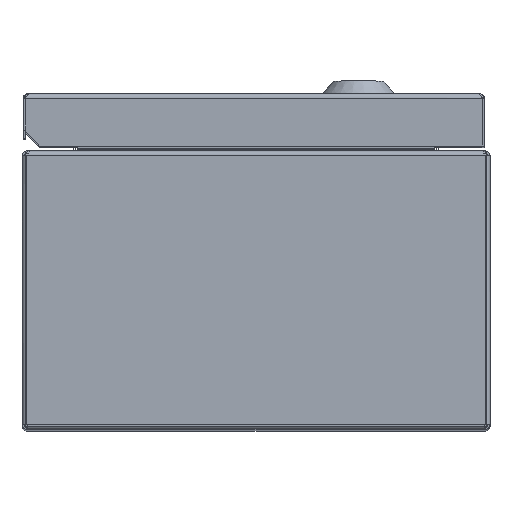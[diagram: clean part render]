
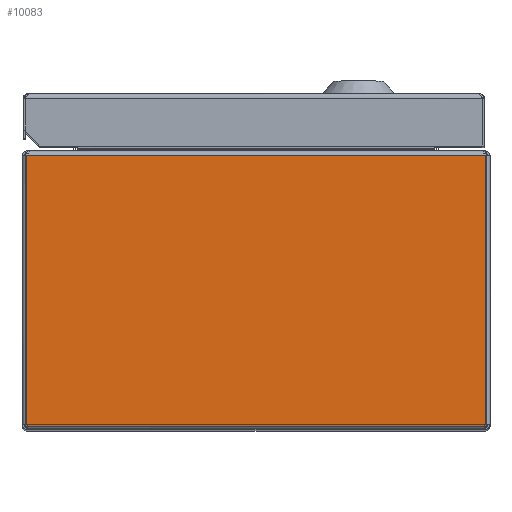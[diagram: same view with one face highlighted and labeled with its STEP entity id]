
A CAD part, top view. The second image highlights one B-rep face of the part: STEP entity #10083.
In plain terms, the highlighted planar face has unit normal (0, 0, 1).
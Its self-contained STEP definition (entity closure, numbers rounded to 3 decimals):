
#1324 = CARTESIAN_POINT ( 'NONE',  ( -103.5, 1.5, 200. ) ) ;
#1974 = DIRECTION ( 'NONE',  ( 0., -1., 0. ) ) ;
#2226 = LINE ( 'NONE', #9268, #6139 ) ;
#2232 = ORIENTED_EDGE ( 'NONE', *, *, #11331, .F. ) ;
#2481 = ORIENTED_EDGE ( 'NONE', *, *, #3702, .F. ) ;
#2520 = EDGE_CURVE ( 'NONE', #9438, #7120, #2226, .T. ) ;
#2756 = AXIS2_PLACEMENT_3D ( 'NONE', #9349, #9257, #6211 ) ;
#3235 = PLANE ( 'NONE',  #2756 ) ;
#3545 = VECTOR ( 'NONE', #8386, 1000. ) ;
#3702 = EDGE_CURVE ( 'NONE', #9438, #9050, #11297, .T. ) ;
#3958 = CARTESIAN_POINT ( 'NONE',  ( -103.5, 1.5, 200. ) ) ;
#4312 = FACE_OUTER_BOUND ( 'NONE', #7557, .T. ) ;
#4637 = CARTESIAN_POINT ( 'NONE',  ( -103.5, 122.8, 200. ) ) ;
#5139 = CARTESIAN_POINT ( 'NONE',  ( 103.5, 122.8, 200. ) ) ;
#5252 = ORIENTED_EDGE ( 'NONE', *, *, #2520, .T. ) ;
#6139 = VECTOR ( 'NONE', #9357, 1000. ) ;
#6211 = DIRECTION ( 'NONE',  ( 0., 1., 0. ) ) ;
#7120 = VERTEX_POINT ( 'NONE', #3958 ) ;
#7557 = EDGE_LOOP ( 'NONE', ( #5252, #12172, #2232, #2481 ) ) ;
#8182 = CARTESIAN_POINT ( 'NONE',  ( 103.5, 1.5, 200. ) ) ;
#8194 = VERTEX_POINT ( 'NONE', #8182 ) ;
#8386 = DIRECTION ( 'NONE',  ( 1., 0., 0. ) ) ;
#9050 = VERTEX_POINT ( 'NONE', #5139 ) ;
#9053 = VECTOR ( 'NONE', #11766, 1000. ) ;
#9257 = DIRECTION ( 'NONE',  ( 0., 0., 1. ) ) ;
#9268 = CARTESIAN_POINT ( 'NONE',  ( -103.5, 122.8, 200. ) ) ;
#9349 = CARTESIAN_POINT ( 'NONE',  ( -103.5, 122.8, 200. ) ) ;
#9357 = DIRECTION ( 'NONE',  ( 0., -1., 0. ) ) ;
#9438 = VERTEX_POINT ( 'NONE', #11058 ) ;
#9694 = LINE ( 'NONE', #1324, #3545 ) ;
#10083 = ADVANCED_FACE ( 'NONE', ( #4312 ), #3235, .T. ) ;
#10680 = LINE ( 'NONE', #13083, #11488 ) ;
#11058 = CARTESIAN_POINT ( 'NONE',  ( -103.5, 122.8, 200. ) ) ;
#11297 = LINE ( 'NONE', #4637, #9053 ) ;
#11331 = EDGE_CURVE ( 'NONE', #9050, #8194, #10680, .T. ) ;
#11488 = VECTOR ( 'NONE', #1974, 1000. ) ;
#11766 = DIRECTION ( 'NONE',  ( 1., 0., 0. ) ) ;
#12157 = EDGE_CURVE ( 'NONE', #7120, #8194, #9694, .T. ) ;
#12172 = ORIENTED_EDGE ( 'NONE', *, *, #12157, .T. ) ;
#13083 = CARTESIAN_POINT ( 'NONE',  ( 103.5, 122.8, 200. ) ) ;
